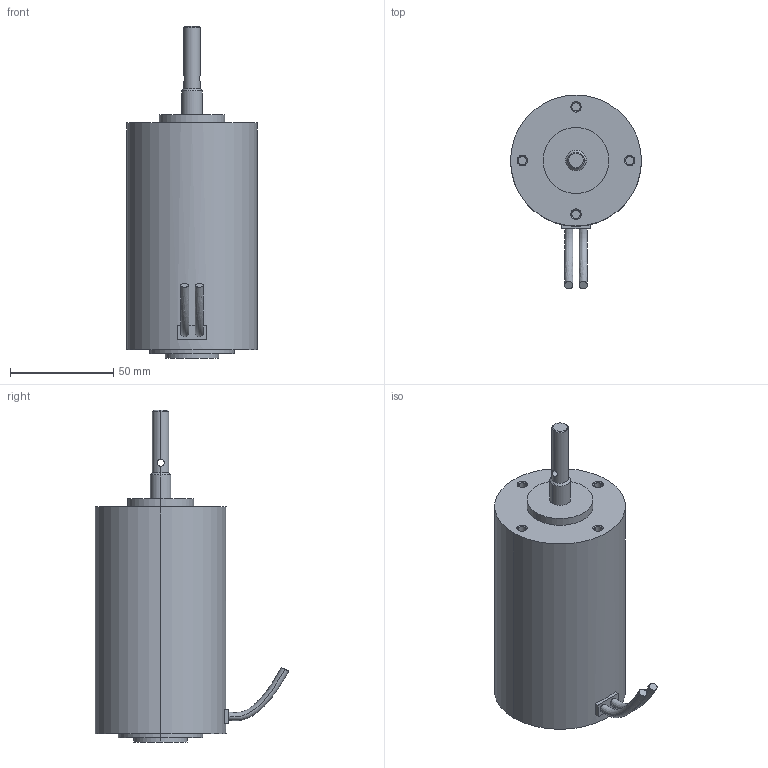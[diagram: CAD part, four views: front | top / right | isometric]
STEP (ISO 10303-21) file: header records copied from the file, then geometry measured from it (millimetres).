
FILE_DESCRIPTION(('STEP AP214'),'1');
FILE_NAME('Z:/TurboCAD/Motor/tmp0.STEP','2015-04-01T12:21:35',(' '),(' '),'Spatial InterOp 3D',' ',' ');
FILE_SCHEMA(('automotive_design'));
Length unit declared in the file: millimetre
Products named in the file (5): 1; 2; 3; 4; 5
Bounding box: 63.5 x 93.91 x 161.04 mm (x, y, z)
Volume: 357791.4 mm3; surface area: 33619.4 mm2
Topology: 1 solids, 13 shells, 67 faces, 166 edges, 122 vertices
Faces by surface type: cylinder 30, plane 21, cone 12, bspline 4
Entity records: 4224 total; most frequent: CARTESIAN_POINT 1928, DIRECTION 382, ORIENTED_EDGE 284, EDGE_CURVE 166, AXIS2_PLACEMENT_3D 160, VERTEX_POINT 122, CIRCLE 92, EDGE_LOOP 82
